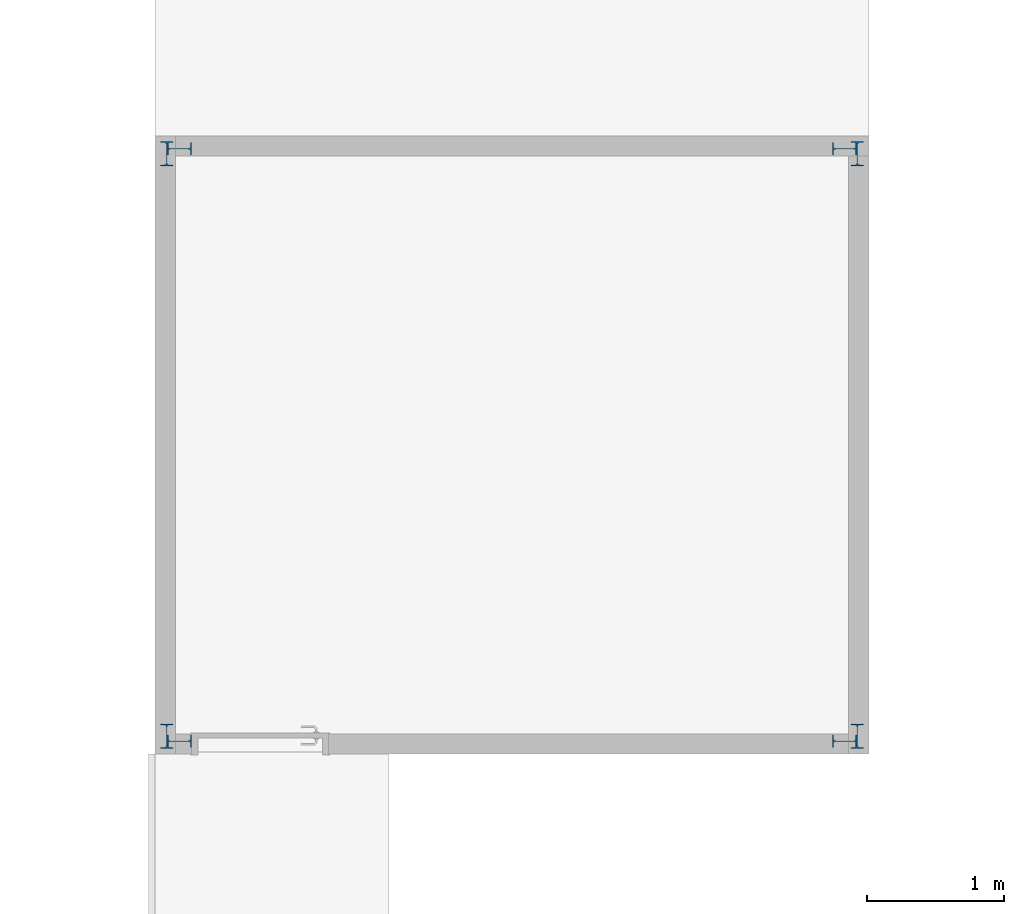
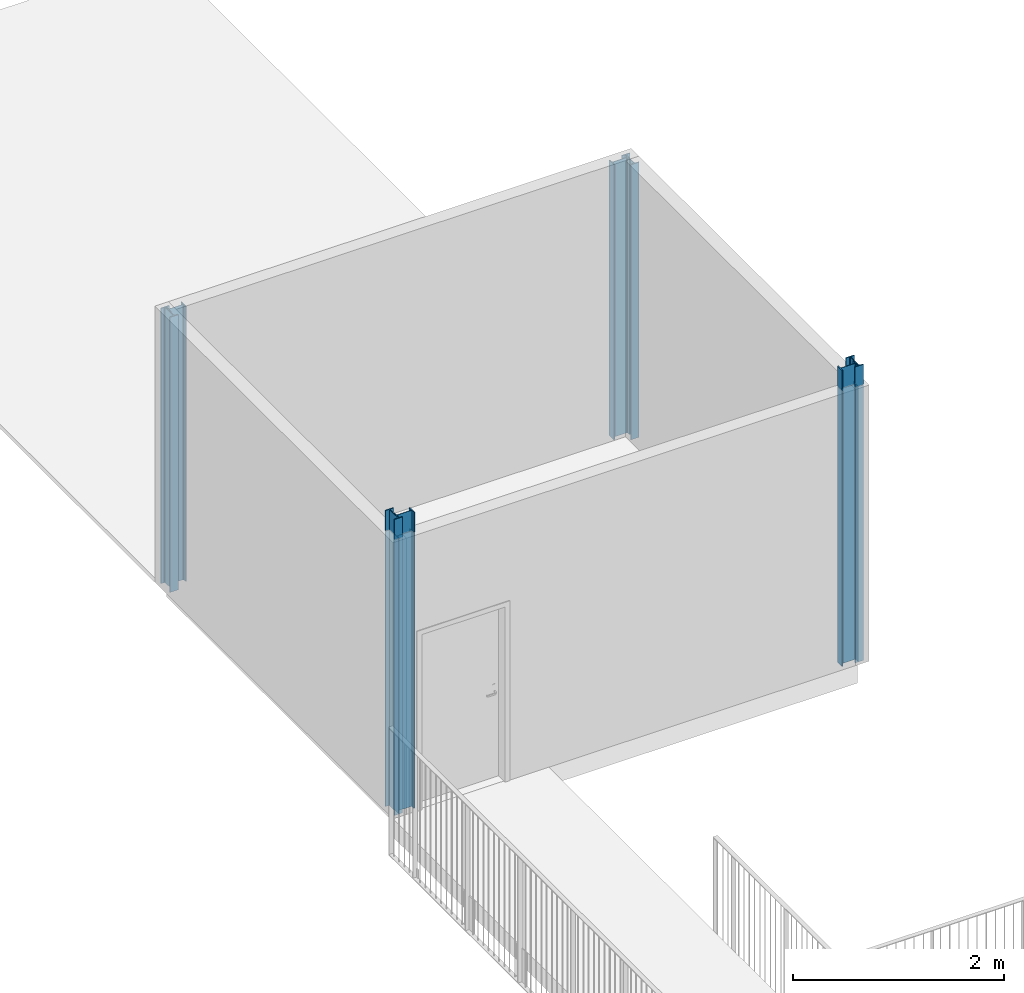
# One storey, part 1 of 44: 12 columns.
"""IFC2X3 building model written with IfcOpenShell, lengths in centimetres."""

from ifc_helpers import new_model, entity, si_unit, converted_unit, derived_unit, direction, frame, frame_2d, origin, place, context, subcontext, project, spatial, polyline, circle_curve, parameter, trimmed, segment, composite_curve, i_section, outline, extrude, source, transform, mapped, material, type_object, type_shapes, element, save


model = new_model("IFC2X3")

# Units and contexts
model_context = context("Model", 3, precision=0.001, world=origin(), true_north=direction((6.12303176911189e-17, 1.0)))
body_context = subcontext(model_context, "Body", "Model", "MODEL_VIEW")
ifc_project = project(units=[si_unit("LENGTHUNIT", "METRE", prefix="CENTI"), si_unit("AREAUNIT", "SQUARE_METRE"), si_unit("VOLUMEUNIT", "CUBIC_METRE"), converted_unit("PLANEANGLEUNIT", "DEGREE", entity("IfcRatioMeasure", 0.0174532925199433), si_unit("PLANEANGLEUNIT", "RADIAN"), dimensions=[0, 0, 0, 0, 0, 0, 0]), si_unit("MASSUNIT", "GRAM", prefix="KILO"), si_unit("TIMEUNIT", "SECOND"), si_unit("FREQUENCYUNIT", "HERTZ"), si_unit("THERMODYNAMICTEMPERATUREUNIT", "DEGREE_CELSIUS"), derived_unit("THERMALTRANSMITTANCEUNIT", [(si_unit("MASSUNIT", "GRAM", prefix="KILO"), 1), (si_unit("THERMODYNAMICTEMPERATUREUNIT", "KELVIN"), -1), (si_unit("TIMEUNIT", "SECOND"), -3)]), derived_unit("VOLUMETRICFLOWRATEUNIT", [(si_unit("LENGTHUNIT", "METRE"), 3), (si_unit("TIMEUNIT", "SECOND"), -1)]), si_unit("ELECTRICCURRENTUNIT", "AMPERE"), si_unit("ELECTRICVOLTAGEUNIT", "VOLT"), si_unit("POWERUNIT", "WATT"), si_unit("FORCEUNIT", "NEWTON", prefix="KILO"), si_unit("ILLUMINANCEUNIT", "LUX"), si_unit("LUMINOUSFLUXUNIT", "LUMEN"), si_unit("LUMINOUSINTENSITYUNIT", "CANDELA"), derived_unit("USERDEFINED", [(si_unit("MASSUNIT", "GRAM", prefix="KILO"), -1), (si_unit("LENGTHUNIT", "METRE"), -2), (si_unit("TIMEUNIT", "SECOND"), 3), (si_unit("LUMINOUSFLUXUNIT", "LUMEN"), 1)]), derived_unit("LINEARVELOCITYUNIT", [(si_unit("LENGTHUNIT", "METRE"), 1), (si_unit("TIMEUNIT", "SECOND"), -1)]), si_unit("PRESSUREUNIT", "PASCAL"), derived_unit("USERDEFINED", [(si_unit("LENGTHUNIT", "METRE"), -2), (si_unit("MASSUNIT", "GRAM", prefix="KILO"), 1), (si_unit("TIMEUNIT", "SECOND"), -2)])], contexts=[model_context])

# Site, building, storey
site_placement = place(None, frame((8.62739174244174, -249.285249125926, 0.0)))
site = spatial("IfcSite", under=ifc_project, at=site_placement, Name="Default", CompositionType="ELEMENT")
building_placement = place(site_placement, origin())
building = spatial("IfcBuilding", under=site, at=building_placement, CompositionType="ELEMENT")
storey_placement = place(building_placement, frame((0.0, 0.0, 343.0)))
storey = spatial("IfcBuildingStorey", under=building, at=storey_placement, Name="R+1", CompositionType="ELEMENT", Elevation=343.0)

# Columns
ifc_material = material(Name="Acier, 45-345")
column_type_1 = type_object("IfcColumnType", Name="IPE 180", PredefinedType="COLUMN", material=ifc_material)
shared_shape_1 = source(origin(), body_context, "Body", "SweptSolid", [
    extrude(outline(composite_curve([segment(polyline([(8.1, -4.5), (9.0, -4.5)]), True, "CONTINUOUS"), segment(polyline([(9.0, -4.5), (9.0, 4.5)]), True, "CONTINUOUS"), segment(polyline([(9.0, 4.5), (8.1, 4.5)]), True, "CONTINUOUS"), segment(polyline([(8.1, 4.5), (8.1, 1.8)]), True, "CONTINUOUS"), segment(trimmed(circle_curve(frame_2d((6.6, 1.8), x_axis=(1.0, 0.0)), 1.5), [parameter(270.0)], [parameter(0.0)], True, "PARAMETER"), False, "CONTINUOUS"), segment(polyline([(6.60000000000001, 0.300000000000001), (-6.6, 0.300000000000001)]), True, "CONTINUOUS"), segment(trimmed(circle_curve(frame_2d((-6.6, 1.8), x_axis=(0.0, -1.0)), 1.5), [parameter(270.0)], [parameter(0.0)], True, "PARAMETER"), False, "CONTINUOUS"), segment(polyline([(-8.1, 1.8), (-8.1, 4.5)]), True, "CONTINUOUS"), segment(polyline([(-8.1, 4.5), (-9.0, 4.5)]), True, "CONTINUOUS"), segment(polyline([(-9.0, 4.5), (-9.0, -4.5)]), True, "CONTINUOUS"), segment(polyline([(-9.0, -4.5), (-8.1, -4.5)]), True, "CONTINUOUS"), segment(polyline([(-8.1, -4.5), (-8.1, -1.8)]), True, "CONTINUOUS"), segment(trimmed(circle_curve(frame_2d((-6.6, -1.8), x_axis=(-1.0, 0.0)), 1.5), [parameter(270.0)], [parameter(0.0)], True, "PARAMETER"), False, "CONTINUOUS"), segment(polyline([(-6.6, -0.3), (6.6, -0.3)]), True, "CONTINUOUS"), segment(trimmed(circle_curve(frame_2d((6.6, -1.8), x_axis=(0.0, 1.0)), 1.5), [parameter(270.0)], [parameter(0.0)], True, "PARAMETER"), False, "CONTINUOUS"), segment(polyline([(8.1, -1.8), (8.1, -4.5)]), True, "CONTINUOUS")], self_intersect=False)), frame((0.0, 0.0, 343.0), z_axis=(0.0, 0.0, 1.0), x_axis=(0.0, -1.0, 0.0)), (0.0, 0.0, 1.0), 319.0),
])
type_shapes(column_type_1, [shared_shape_1])
column_1_placement = place(storey_placement, frame((1032.40482780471, 1495.48020806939, -343.0)))
element("IfcColumn", 1, at=column_1_placement, inside=storey, type_object=column_type_1, material=ifc_material, Name="IPE-180-90:IPE 180", ObjectType="IPE 180", context=body_context, shape_type="MappedRepresentation", body=[
    mapped(shared_shape_1, transform((0.0, 0.0, 0.0), scale=1.0)),
])
for number, where, z_axis, x_axis, name in (
    (2, (1041.70482780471, 1491.88020806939, -343.0), (0.0, 0.0, 1.0), (0.0, 1.0, 0.0), "IPE-180-90:IPE 180"),
    (3, (1537.40482780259, 1921.48020806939, -343.0), (0.0, 0.0, 1.0), (-1.0, 0.0, 0.0), "IPE-180-90:IPE 180"),
    (4, (1528.10482780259, 1925.08020806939, -343.0), (0.0, 0.0, 1.0), (0.0, -1.0, 0.0), "IPE-180-90:IPE 180"),
):
    element("IfcColumn", number, at=place(storey_placement, frame(where, z_axis=z_axis, x_axis=x_axis)), inside=storey, type_object=column_type_1, material=ifc_material, Name=name, ObjectType="IPE 180", context=body_context, shape_type="MappedRepresentation", body=[
        mapped(shared_shape_1, transform((0.0, 0.0, 0.0), scale=1.0)),
    ])
column_type_2 = type_object("IfcColumnType", Name="IPE 180", PredefinedType="COLUMN", material=ifc_material)
shared_shape_2 = source(origin(), body_context, "Body", "SweptSolid", [
    extrude(i_section(OverallWidth=9.0, OverallDepth=18.0, WebThickness=0.600000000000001, FlangeThickness=0.9, FilletRadius=1.5, at=frame_2d((0.0, -8.88178419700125e-16), x_axis=(0.0, 1.0))), frame((0.0, 0.0, 343.0), z_axis=(0.0, 0.0, 1.0), x_axis=(0.0, -1.0, 0.0)), (0.0, 0.0, 1.0), 319.0),
])
type_shapes(column_type_2, [shared_shape_2])
for number, where, z_axis, x_axis, name in (
    (5, (1537.40482780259, 1495.48020806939, -343.0), (0.0, 0.0, 1.0), (-1.0, 0.0, 0.0), "IPE-180-90:IPE 180"),
    (6, (1528.10482780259, 1491.88020806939, -343.0), (0.0, 0.0, 1.0), (0.0, 1.0, 0.0), "IPE-180-90:IPE 180"),
):
    element("IfcColumn", number, at=place(storey_placement, frame(where, z_axis=z_axis, x_axis=x_axis)), inside=storey, type_object=column_type_2, material=ifc_material, Name=name, ObjectType="IPE 180", context=body_context, shape_type="MappedRepresentation", body=[
        mapped(shared_shape_2, transform((0.0, 0.0, 0.0), scale=1.0)),
    ])
column_2_placement = place(storey_placement, frame((1032.40482780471, 1921.48020806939, -343.0)))
element("IfcColumn", 7, at=column_2_placement, inside=storey, type_object=column_type_2, material=ifc_material, Name="IPE-180-90:IPE 180", ObjectType="IPE 180", context=body_context, shape_type="MappedRepresentation", body=[
    mapped(shared_shape_2, transform((0.0, 0.0, 0.0), scale=1.0)),
])
column_3_placement = place(storey_placement, frame((1041.70482780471, 1925.08020806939, -343.0), z_axis=(0.0, 0.0, 1.0), x_axis=(0.0, -1.0, 0.0)))
element("IfcColumn", 8, at=column_3_placement, inside=storey, type_object=column_type_2, material=ifc_material, Name="IPE-180-90:IPE 180", ObjectType="IPE 180", context=body_context, shape_type="MappedRepresentation", body=[
    mapped(shared_shape_2, transform((0.0, 0.0, 0.0), scale=1.0)),
])
column_type_3 = type_object("IfcColumnType", Name="IPE 180", PredefinedType="COLUMN", material=ifc_material)
shared_shape_3 = source(origin(), body_context, "Body", "SweptSolid", [
    extrude(i_section(OverallWidth=9.0, OverallDepth=18.0, WebThickness=0.600000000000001, FlangeThickness=0.9, FilletRadius=1.5, at=frame_2d((0.0, -8.88178419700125e-16), x_axis=(0.0, 1.0))), frame((0.0, 0.0, 343.0), z_axis=(0.0, 0.0, 1.0), x_axis=(0.0, -1.0, 0.0)), (0.0, 0.0, 1.0), 343.000000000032),
])
type_shapes(column_type_3, [shared_shape_3])
column_4_placement = place(storey_placement, frame((1032.40482780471, 1495.48020806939, -343.0)))
element("IfcColumn", 9, at=column_4_placement, inside=storey, type_object=column_type_3, material=ifc_material, Name="IPE-180-90:IPE 180", ObjectType="IPE 180", context=body_context, shape_type="MappedRepresentation", body=[
    mapped(shared_shape_3, transform((0.0, 0.0, 0.0), scale=1.0)),
])
column_5_placement = place(storey_placement, frame((1528.10482780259, 1491.88020806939, -343.0), z_axis=(0.0, 0.0, 1.0), x_axis=(0.0, 1.0, 0.0)))
element("IfcColumn", 10, at=column_5_placement, inside=storey, type_object=column_type_3, material=ifc_material, Name="IPE-180-90:IPE 180", ObjectType="IPE 180", context=body_context, shape_type="MappedRepresentation", body=[
    mapped(shared_shape_3, transform((0.0, 0.0, 0.0), scale=1.0)),
])
column_type_4 = type_object("IfcColumnType", Name="IPE 180", PredefinedType="COLUMN", material=ifc_material)
shared_shape_4 = source(origin(), body_context, "Body", "SweptSolid", [
    extrude(outline(composite_curve([segment(polyline([(8.1, -4.5), (9.0, -4.5)]), True, "CONTINUOUS"), segment(polyline([(9.0, -4.5), (9.0, 4.5)]), True, "CONTINUOUS"), segment(polyline([(9.0, 4.5), (8.1, 4.5)]), True, "CONTINUOUS"), segment(polyline([(8.1, 4.5), (8.1, 1.8)]), True, "CONTINUOUS"), segment(trimmed(circle_curve(frame_2d((6.6, 1.8), x_axis=(1.0, 0.0)), 1.5), [parameter(270.0)], [parameter(0.0)], True, "PARAMETER"), False, "CONTINUOUS"), segment(polyline([(6.60000000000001, 0.300000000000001), (-6.6, 0.300000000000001)]), True, "CONTINUOUS"), segment(trimmed(circle_curve(frame_2d((-6.6, 1.8), x_axis=(0.0, -1.0)), 1.5), [parameter(270.0)], [parameter(0.0)], True, "PARAMETER"), False, "CONTINUOUS"), segment(polyline([(-8.1, 1.8), (-8.1, 4.5)]), True, "CONTINUOUS"), segment(polyline([(-8.1, 4.5), (-9.0, 4.5)]), True, "CONTINUOUS"), segment(polyline([(-9.0, 4.5), (-9.0, -4.5)]), True, "CONTINUOUS"), segment(polyline([(-9.0, -4.5), (-8.1, -4.5)]), True, "CONTINUOUS"), segment(polyline([(-8.1, -4.5), (-8.1, -1.8)]), True, "CONTINUOUS"), segment(trimmed(circle_curve(frame_2d((-6.6, -1.8), x_axis=(-1.0, 0.0)), 1.5), [parameter(270.0)], [parameter(0.0)], True, "PARAMETER"), False, "CONTINUOUS"), segment(polyline([(-6.6, -0.3), (6.6, -0.3)]), True, "CONTINUOUS"), segment(trimmed(circle_curve(frame_2d((6.6, -1.8), x_axis=(0.0, 1.0)), 1.5), [parameter(270.0)], [parameter(0.0)], True, "PARAMETER"), False, "CONTINUOUS"), segment(polyline([(8.1, -1.8), (8.1, -4.5)]), True, "CONTINUOUS")], self_intersect=False)), frame((0.0, 0.0, 343.0), z_axis=(0.0, 0.0, 1.0), x_axis=(0.0, -1.0, 0.0)), (0.0, 0.0, 1.0), 343.000000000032),
])
type_shapes(column_type_4, [shared_shape_4])
for number, where, z_axis, x_axis, name in (
    (11, (1041.70482780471, 1491.88020806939, -343.0), (0.0, 0.0, 1.0), (0.0, 1.0, 0.0), "IPE-180-90:IPE 180"),
    (12, (1537.40482780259, 1495.48020806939, -343.0), (0.0, 0.0, 1.0), (-1.0, 0.0, 0.0), "IPE-180-90:IPE 180"),
):
    element("IfcColumn", number, at=place(storey_placement, frame(where, z_axis=z_axis, x_axis=x_axis)), inside=storey, type_object=column_type_4, material=ifc_material, Name=name, ObjectType="IPE 180", context=body_context, shape_type="MappedRepresentation", body=[
        mapped(shared_shape_4, transform((0.0, 0.0, 0.0), scale=1.0)),
    ])

save(model, "model.ifc")
